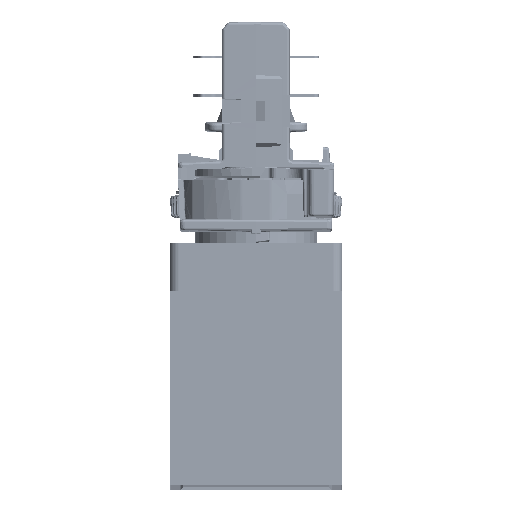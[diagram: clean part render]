
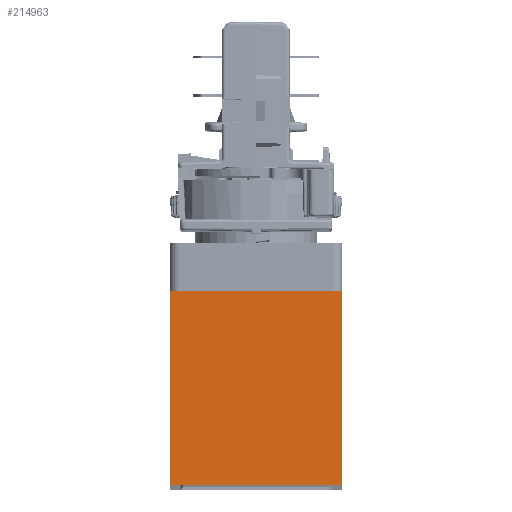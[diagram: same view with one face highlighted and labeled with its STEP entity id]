
A CAD part, top view. The second image highlights one B-rep face of the part: STEP entity #214963.
In plain terms, the highlighted planar face has unit normal (0, 0, 1).
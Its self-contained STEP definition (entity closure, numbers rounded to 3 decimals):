
#11701=PLANE('',#230733);
#22605=FACE_OUTER_BOUND('',#34505,.T.);
#34505=EDGE_LOOP('',(#178409,#178410,#178411,#178412));
#48772=LINE('',#603313,#69271);
#48775=LINE('',#603318,#69274);
#48777=LINE('',#603322,#69276);
#48778=LINE('',#603324,#69277);
#69271=VECTOR('',#268928,1000.);
#69274=VECTOR('',#268933,1000.);
#69276=VECTOR('',#268937,1000.);
#69277=VECTOR('',#268940,1000.);
#98331=VERTEX_POINT('',#603310);
#98332=VERTEX_POINT('',#603312);
#98333=VERTEX_POINT('',#603316);
#98334=VERTEX_POINT('',#603320);
#126486=EDGE_CURVE('',#98332,#98331,#48772,.T.);
#126489=EDGE_CURVE('',#98331,#98333,#48775,.T.);
#126491=EDGE_CURVE('',#98334,#98333,#48777,.T.);
#126492=EDGE_CURVE('',#98332,#98334,#48778,.T.);
#178409=ORIENTED_EDGE('',*,*,#126486,.T.);
#178410=ORIENTED_EDGE('',*,*,#126489,.T.);
#178411=ORIENTED_EDGE('',*,*,#126491,.F.);
#178412=ORIENTED_EDGE('',*,*,#126492,.F.);
#214963=ADVANCED_FACE('',(#22605),#11701,.T.);
#230733=AXIS2_PLACEMENT_3D('',#603325,#268941,#268942);
#268928=DIRECTION('',(0.,-1.,0.));
#268933=DIRECTION('',(1.,0.,0.));
#268937=DIRECTION('',(0.,-1.,0.));
#268940=DIRECTION('',(1.,0.,0.));
#268941=DIRECTION('center_axis',(0.,0.,1.));
#268942=DIRECTION('ref_axis',(1.,0.,0.));
#603310=CARTESIAN_POINT('',(-17.6,0.,290.));
#603312=CARTESIAN_POINT('',(-17.6,39.5,290.));
#603313=CARTESIAN_POINT('',(-17.6,39.5,290.));
#603316=CARTESIAN_POINT('',(17.6,0.,290.));
#603318=CARTESIAN_POINT('',(-17.6,0.,290.));
#603320=CARTESIAN_POINT('',(17.6,39.5,290.));
#603322=CARTESIAN_POINT('',(17.6,39.5,290.));
#603324=CARTESIAN_POINT('',(-17.6,39.5,290.));
#603325=CARTESIAN_POINT('Origin',(11.,18.749,290.));
